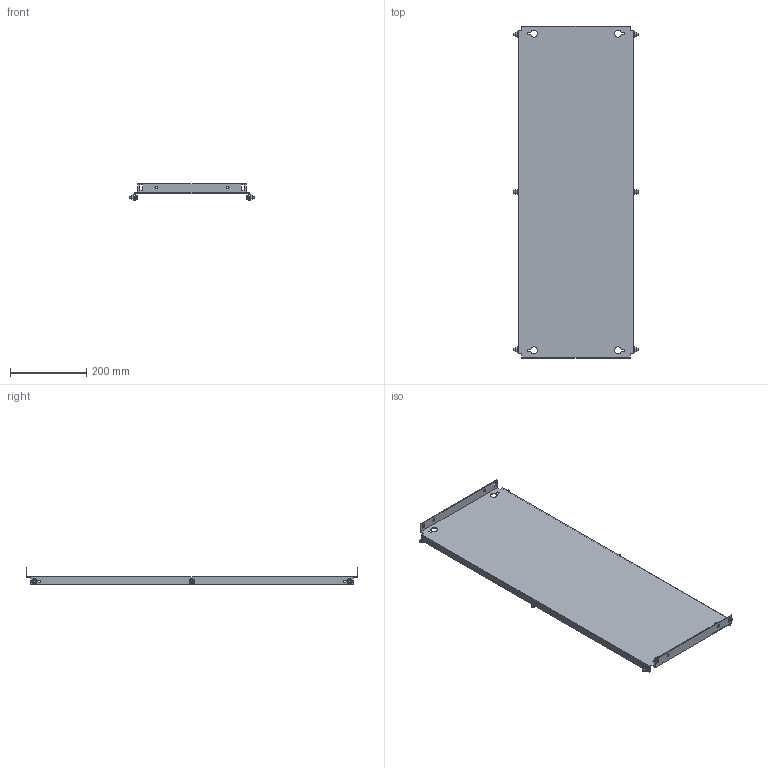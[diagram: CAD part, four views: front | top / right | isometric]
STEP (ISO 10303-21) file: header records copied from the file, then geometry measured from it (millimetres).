
FILE_DESCRIPTION(('Open CASCADE Model'),'2;1');
FILE_NAME('Open CASCADE Shape Model','2025-02-20T13:24:47',('Author'),( 'Open CASCADE'),'Open CASCADE STEP processor 7.8','Open CASCADE 7.8' ,'Unknown');
FILE_SCHEMA(('AUTOMOTIVE_DESIGN { 1 0 10303 214 1 1 1 1 }'));
Length unit declared in the file: millimetre
Products named in the file (4): Compound1; Solid1; Solid2; Solid3
Assembly tree (13 placements, depth 2):
  Compound1
    Solid1
    Solid2  x6
    Solid3  x6
Bounding box: 328 x 869 x 43 mm (x, y, z)
Volume: 610534.6 mm3; surface area: 615639.2 mm2
Topology: 13 solids, 13 shells, 420 faces, 1003 edges, 615 vertices
Faces by surface type: plane 192, cone 102, bspline 72, cylinder 36, torus 18
Full cylindrical faces by diameter (mm): 5 x6, 6 x12, 7 x14
Entity records: 4962 total; most frequent: CARTESIAN_POINT 1381, ORIENTED_EDGE 756, DIRECTION 650, EDGE_CURVE 378, VERTEX_POINT 245, AXIS2_PLACEMENT_3D 217, LINE 216, VECTOR 216
